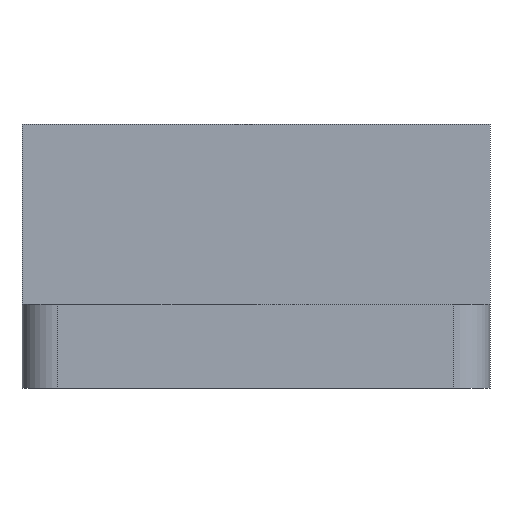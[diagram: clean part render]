
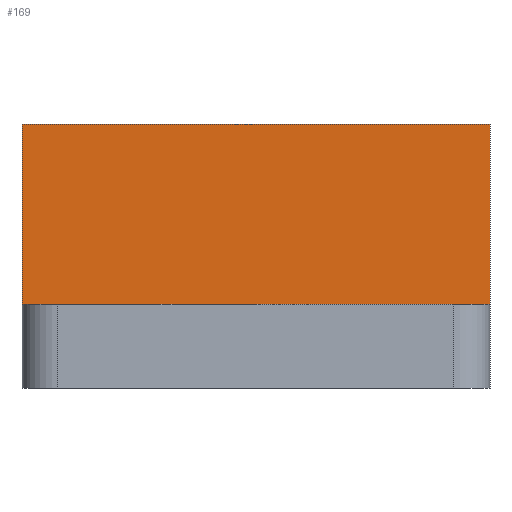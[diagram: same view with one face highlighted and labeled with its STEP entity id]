
A CAD part, left-side view. The second image highlights one B-rep face of the part: STEP entity #169.
In plain terms, the highlighted planar face has unit normal (-1, 0, 0).
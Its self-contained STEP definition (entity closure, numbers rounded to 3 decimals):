
#169=ADVANCED_FACE('',(#195),#189,.T.);
#189=PLANE('',#507);
#195=FACE_OUTER_BOUND('',#221,.T.);
#221=EDGE_LOOP('',(#302,#303,#304,#305));
#302=ORIENTED_EDGE('',*,*,#417,.T.);
#303=ORIENTED_EDGE('',*,*,#375,.F.);
#304=ORIENTED_EDGE('',*,*,#387,.T.);
#305=ORIENTED_EDGE('',*,*,#383,.T.);
#339=VERTEX_POINT('',#645);
#340=VERTEX_POINT('',#647);
#347=VERTEX_POINT('',#662);
#348=VERTEX_POINT('',#664);
#375=EDGE_CURVE('',#339,#340,#423,.T.);
#383=EDGE_CURVE('',#348,#347,#431,.T.);
#387=EDGE_CURVE('',#339,#348,#434,.T.);
#417=EDGE_CURVE('',#347,#340,#445,.T.);
#423=LINE('',#646,#451);
#431=LINE('',#663,#459);
#434=LINE('',#671,#462);
#445=LINE('',#729,#473);
#451=VECTOR('',#525,1.);
#459=VECTOR('',#535,1.);
#462=VECTOR('',#542,1.);
#473=VECTOR('',#609,1.);
#507=AXIS2_PLACEMENT_3D('',#731,#612,#613);
#525=DIRECTION('',(0.,0.,-1.));
#535=DIRECTION('',(0.,0.,-1.));
#542=DIRECTION('',(0.,1.,0.));
#609=DIRECTION('',(0.,-1.,0.));
#612=DIRECTION('',(-1.,0.,0.));
#613=DIRECTION('',(0.,0.,1.));
#645=CARTESIAN_POINT('',(-7.5,-19.5,22.));
#646=CARTESIAN_POINT('',(-7.5,-19.5,22.));
#647=CARTESIAN_POINT('',(-7.5,-19.5,7.));
#662=CARTESIAN_POINT('',(-7.5,19.5,7.));
#663=CARTESIAN_POINT('',(-7.5,19.5,22.));
#664=CARTESIAN_POINT('',(-7.5,19.5,22.));
#671=CARTESIAN_POINT('',(-7.5,-22.5,22.));
#729=CARTESIAN_POINT('',(-7.5,-22.5,7.));
#731=CARTESIAN_POINT('',(-7.5,-22.5,22.));
